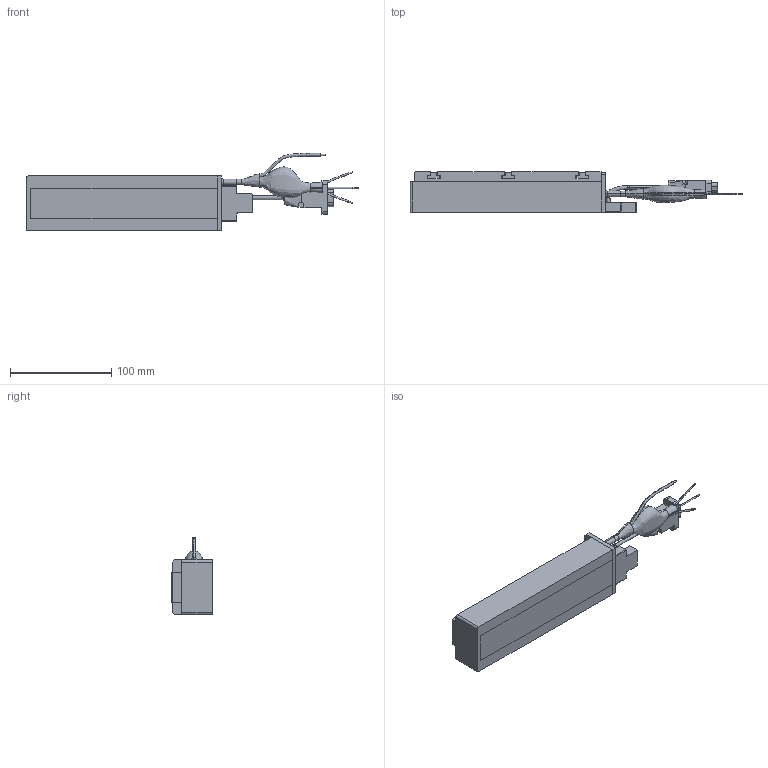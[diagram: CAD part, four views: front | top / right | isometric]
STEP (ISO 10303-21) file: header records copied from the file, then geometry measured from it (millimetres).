
FILE_DESCRIPTION (( 'STEP AP214' ), '1' );
FILE_NAME ('PIX200-040-030.STEP', '2016-05-10T03:20:45', ( '' ), ( '' ), 'SwSTEP 2.0', 'SolidWorks 2015', '' );
FILE_SCHEMA (( 'AUTOMOTIVE_DESIGN' ));
Length unit declared in the file: millimetre
Products named in the file (12): 001S200-040-030-004; 001S200-040-030-0000-003_CUSTOMER; 001S200-040-0000-001_CUSTOMER_30; PIX200-040-030; FERRITE CORE (FC2); CBL_MTR_PWR_SS_4C2C_SA (#3620-1); 001SH-0000-000_CUSTOMER ; MALE D-SUB 9PIN CONNECTOR(HALL); HEX SHCS M3x0.5x10(S.S)_B18.3.1M - 3 x 0.5 x 10 Hex SHCS -- 10CHX; CBL_MTR_HALL_DS_5C_SA (#3614-1); 001SH-0000-002_CUSTOMER; 001S200-040-030-003_CUSTOMER
Assembly tree (16 placements, depth 3):
  PIX200-040-030
    001S200-040-0000-001_CUSTOMER_30
    001S200-040-030-0000-003_CUSTOMER  x3
    001S200-040-030-004
    001S200-040-030-003_CUSTOMER
    001SH-0000-000_CUSTOMER 
      001SH-0000-002_CUSTOMER
      CBL_MTR_HALL_DS_5C_SA (#3614-1)
      HEX SHCS M3x0.5x10(S.S)_B18.3.1M - 3 x 0.5 x 10 Hex SHCS -- 10CHX  x2
      MALE D-SUB 9PIN CONNECTOR(HALL)
    HEX SHCS M3x0.5x10(S.S)_B18.3.1M - 3 x 0.5 x 10 Hex SHCS -- 10CHX  x2
    CBL_MTR_PWR_SS_4C2C_SA (#3620-1)
    FERRITE CORE (FC2)
Bounding box: 328 x 39.9 x 76.34 mm (x, y, z)
Volume: 571581.9 mm3; surface area: 89540.2 mm2
Topology: 15 solids, 15 shells, 499 faces, 1220 edges, 767 vertices
Faces by surface type: plane 260, cylinder 134, cone 43, torus 28, bspline 23, sphere 11
Entity records: 15075 total; most frequent: CARTESIAN_POINT 5093, DIRECTION 1890, ORIENTED_EDGE 1828, EDGE_CURVE 914, AXIS2_PLACEMENT_3D 680, VERTEX_POINT 586, LINE 530, VECTOR 530
